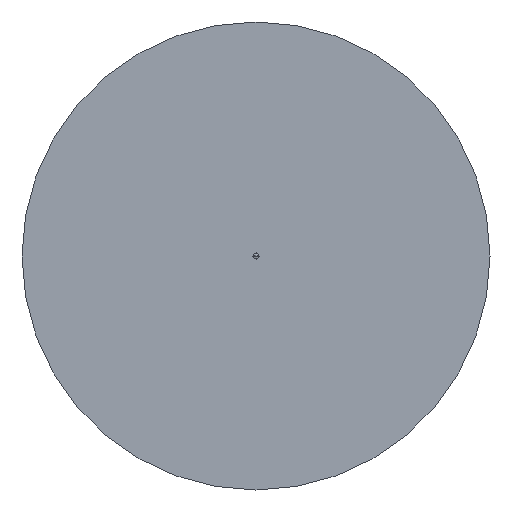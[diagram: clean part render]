
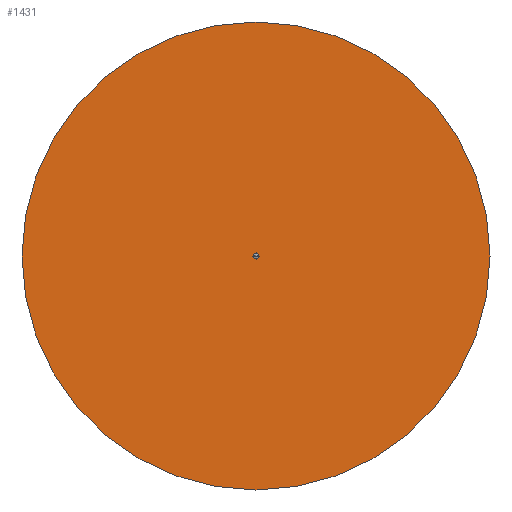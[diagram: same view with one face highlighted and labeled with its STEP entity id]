
A CAD part, front view. The second image highlights one B-rep face of the part: STEP entity #1431.
In plain terms, the highlighted planar face has unit normal (0, -1, 0).
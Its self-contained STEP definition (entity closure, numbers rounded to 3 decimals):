
#143=CARTESIAN_POINT('',(0.9,-27.5,0.0));
#144=VERTEX_POINT('',#143);
#160=CARTESIAN_POINT('',(-0.9,-27.5,0.));
#161=VERTEX_POINT('',#160);
#168=CARTESIAN_POINT('',(0.0,-27.5,0.0));
#169=DIRECTION('',(0.0,-1.0,0.0));
#170=DIRECTION('',(1.0,0.0,0.0));
#171=AXIS2_PLACEMENT_3D('',#168,#169,#170);
#172=CIRCLE('',#171,0.9);
#173=EDGE_CURVE('',#161,#144,#172,.T.);
#185=CARTESIAN_POINT('',(70.,-27.5,0.0));
#186=VERTEX_POINT('',#185);
#202=CARTESIAN_POINT('',(-70.,-27.5,0.));
#203=VERTEX_POINT('',#202);
#210=CARTESIAN_POINT('',(0.0,-27.5,0.0));
#211=DIRECTION('',(0.0,-1.0,0.0));
#212=DIRECTION('',(1.0,0.0,0.0));
#213=AXIS2_PLACEMENT_3D('',#210,#211,#212);
#214=CIRCLE('',#213,70.);
#215=EDGE_CURVE('',#186,#203,#214,.T.);
#1400=CARTESIAN_POINT('',(0.0,-27.5,0.0));
#1401=DIRECTION('',(0.0,-1.0,0.0));
#1402=DIRECTION('',(1.0,0.0,0.0));
#1403=AXIS2_PLACEMENT_3D('',#1400,#1401,#1402);
#1404=CIRCLE('',#1403,70.);
#1405=EDGE_CURVE('',#203,#186,#1404,.T.);
#1412=CARTESIAN_POINT('',(35.45,-27.5,0.0));
#1413=DIRECTION('',(0.0,-1.0,0.0));
#1414=DIRECTION('',(0.0,0.0,-1.0));
#1415=AXIS2_PLACEMENT_3D('',#1412,#1413,#1414);
#1416=PLANE('',#1415);
#1417=ORIENTED_EDGE('',*,*,#215,.T.);
#1418=ORIENTED_EDGE('',*,*,#1405,.T.);
#1419=EDGE_LOOP('',(#1417,#1418));
#1420=FACE_OUTER_BOUND('',#1419,.T.);
#1421=CARTESIAN_POINT('',(0.0,-27.5,0.0));
#1422=DIRECTION('',(0.0,-1.0,0.0));
#1423=DIRECTION('',(1.0,0.0,0.0));
#1424=AXIS2_PLACEMENT_3D('',#1421,#1422,#1423);
#1425=CIRCLE('',#1424,0.9);
#1426=EDGE_CURVE('',#144,#161,#1425,.T.);
#1427=ORIENTED_EDGE('',*,*,#1426,.F.);
#1428=ORIENTED_EDGE('',*,*,#173,.F.);
#1429=EDGE_LOOP('',(#1427,#1428));
#1430=FACE_BOUND('',#1429,.T.);
#1431=ADVANCED_FACE('',(#1420,#1430),#1416,.T.);
